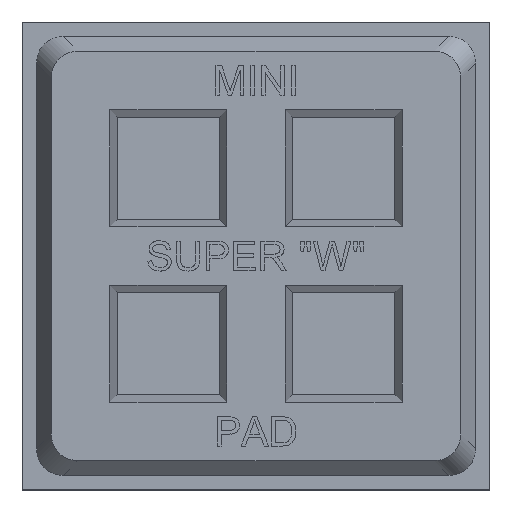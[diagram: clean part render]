
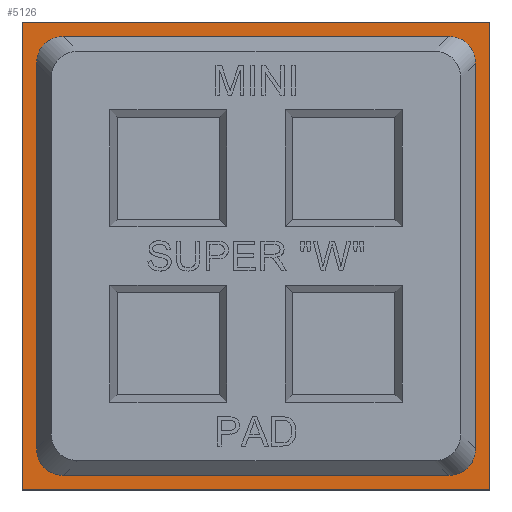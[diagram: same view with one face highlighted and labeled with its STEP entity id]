
A CAD part, top view. The second image highlights one B-rep face of the part: STEP entity #5126.
In plain terms, the highlighted planar face has unit normal (0, 0, 1).
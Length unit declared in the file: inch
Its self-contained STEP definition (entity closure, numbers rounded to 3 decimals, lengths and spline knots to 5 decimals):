
#214=FACE_BOUND('',#1004,.T.);
#424=PLANE('',#5362);
#698=FACE_OUTER_BOUND('',#1003,.T.);
#1003=EDGE_LOOP('',(#4833,#4834,#4835,#4836));
#1004=EDGE_LOOP('',(#4837,#4838,#4839,#4840,#4841,#4842,#4843,#4844));
#1160=LINE('',#6975,#1752);
#1166=LINE('',#6990,#1758);
#1168=LINE('',#6996,#1760);
#1584=LINE('',#8762,#2176);
#1589=LINE('',#8776,#2181);
#1592=LINE('',#8781,#2184);
#1594=LINE('',#8785,#2186);
#1596=LINE('',#8788,#2188);
#1752=VECTOR('',#5568,1.64655);
#1758=VECTOR('',#5584,1.64655);
#1760=VECTOR('',#5592,1.64655);
#2176=VECTOR('',#6398,1.64655);
#2181=VECTOR('',#6409,2.);
#2184=VECTOR('',#6414,2.);
#2186=VECTOR('',#6418,2.);
#2188=VECTOR('',#6422,2.);
#2198=ELLIPSE('',#5147,0.14765,0.125);
#2202=ELLIPSE('',#5154,0.14765,0.125);
#2203=ELLIPSE('',#5156,0.14765,0.125);
#2204=ELLIPSE('',#5159,0.14765,0.125);
#2223=VERTEX_POINT('',#6478);
#2224=VERTEX_POINT('',#6480);
#2406=VERTEX_POINT('',#6974);
#2407=VERTEX_POINT('',#6978);
#2408=VERTEX_POINT('',#6982);
#2409=VERTEX_POINT('',#6984);
#2410=VERTEX_POINT('',#6988);
#2411=VERTEX_POINT('',#6992);
#2681=VERTEX_POINT('',#8774);
#2682=VERTEX_POINT('',#8775);
#2683=VERTEX_POINT('',#8780);
#2684=VERTEX_POINT('',#8784);
#2711=EDGE_CURVE('',#2223,#2224,#2198,.F.);
#2895=EDGE_CURVE('',#2406,#2224,#1160,.T.);
#2897=EDGE_CURVE('',#2406,#2407,#2202,.F.);
#2900=EDGE_CURVE('',#2408,#2409,#2203,.F.);
#2903=EDGE_CURVE('',#2408,#2410,#1166,.T.);
#2905=EDGE_CURVE('',#2411,#2410,#2204,.F.);
#2906=EDGE_CURVE('',#2411,#2407,#1168,.T.);
#3392=EDGE_CURVE('',#2223,#2409,#1584,.T.);
#3397=EDGE_CURVE('',#2681,#2682,#1589,.T.);
#3400=EDGE_CURVE('',#2682,#2683,#1592,.T.);
#3402=EDGE_CURVE('',#2683,#2684,#1594,.T.);
#3404=EDGE_CURVE('',#2684,#2681,#1596,.T.);
#4833=ORIENTED_EDGE('',*,*,#3397,.F.);
#4834=ORIENTED_EDGE('',*,*,#3404,.F.);
#4835=ORIENTED_EDGE('',*,*,#3402,.F.);
#4836=ORIENTED_EDGE('',*,*,#3400,.F.);
#4837=ORIENTED_EDGE('',*,*,#2903,.T.);
#4838=ORIENTED_EDGE('',*,*,#2905,.F.);
#4839=ORIENTED_EDGE('',*,*,#2906,.T.);
#4840=ORIENTED_EDGE('',*,*,#2897,.F.);
#4841=ORIENTED_EDGE('',*,*,#2895,.T.);
#4842=ORIENTED_EDGE('',*,*,#2711,.F.);
#4843=ORIENTED_EDGE('',*,*,#3392,.T.);
#4844=ORIENTED_EDGE('',*,*,#2900,.F.);
#5126=ADVANCED_FACE('',(#698,#214),#424,.T.);
#5147=AXIS2_PLACEMENT_3D('',#6481,#5418,#5419);
#5154=AXIS2_PLACEMENT_3D('',#6979,#5572,#5573);
#5156=AXIS2_PLACEMENT_3D('',#6985,#5578,#5579);
#5159=AXIS2_PLACEMENT_3D('',#6994,#5588,#5589);
#5362=AXIS2_PLACEMENT_3D('',#8789,#6423,#6424);
#5418=DIRECTION('center_axis',(0.,0.,-1.));
#5419=DIRECTION('ref_axis',(-0.707,0.707,0.));
#5568=DIRECTION('',(0.,1.,0.));
#5572=DIRECTION('center_axis',(0.,0.,-1.));
#5573=DIRECTION('ref_axis',(-0.707,-0.707,0.));
#5578=DIRECTION('center_axis',(0.,0.,-1.));
#5579=DIRECTION('ref_axis',(0.707,0.707,0.));
#5584=DIRECTION('',(0.,-1.,0.));
#5588=DIRECTION('center_axis',(0.,0.,-1.));
#5589=DIRECTION('ref_axis',(0.707,-0.707,0.));
#5592=DIRECTION('',(-1.,0.,0.));
#6398=DIRECTION('',(1.,0.,0.));
#6409=DIRECTION('',(0.,-1.,0.));
#6414=DIRECTION('',(-1.,0.,0.));
#6418=DIRECTION('',(0.,1.,0.));
#6422=DIRECTION('',(1.,0.,0.));
#6423=DIRECTION('center_axis',(0.,0.,1.));
#6424=DIRECTION('ref_axis',(1.,0.,0.));
#6478=CARTESIAN_POINT('',(-0.82328,0.9375,0.04688));
#6480=CARTESIAN_POINT('',(-0.9375,0.82328,0.04688));
#6481=CARTESIAN_POINT('Origin',(-0.80071,0.80071,0.04688));
#6974=CARTESIAN_POINT('',(-0.9375,-0.82328,0.04688));
#6975=CARTESIAN_POINT('',(-0.9375,-0.46875,0.04688));
#6978=CARTESIAN_POINT('',(-0.82328,-0.9375,0.04688));
#6979=CARTESIAN_POINT('Origin',(-0.80071,-0.80071,0.04688));
#6982=CARTESIAN_POINT('',(0.9375,0.82328,0.04688));
#6984=CARTESIAN_POINT('',(0.82328,0.9375,0.04688));
#6985=CARTESIAN_POINT('Origin',(0.80071,0.80071,0.04688));
#6988=CARTESIAN_POINT('',(0.9375,-0.82328,0.04688));
#6990=CARTESIAN_POINT('',(0.9375,0.46875,0.04688));
#6992=CARTESIAN_POINT('',(0.82328,-0.9375,0.04688));
#6994=CARTESIAN_POINT('Origin',(0.80071,-0.80071,0.04688));
#6996=CARTESIAN_POINT('',(0.46875,-0.9375,0.04688));
#8762=CARTESIAN_POINT('',(-0.46875,0.9375,0.04688));
#8774=CARTESIAN_POINT('',(1.,1.,0.04688));
#8775=CARTESIAN_POINT('',(1.,-1.,0.04688));
#8776=CARTESIAN_POINT('',(1.,1.,0.04688));
#8780=CARTESIAN_POINT('',(-1.,-1.,0.04688));
#8781=CARTESIAN_POINT('',(1.,-1.,0.04688));
#8784=CARTESIAN_POINT('',(-1.,1.,0.04688));
#8785=CARTESIAN_POINT('',(-1.,-1.,0.04688));
#8788=CARTESIAN_POINT('',(-1.,1.,0.04688));
#8789=CARTESIAN_POINT('Origin',(0.,0.,0.04688));
